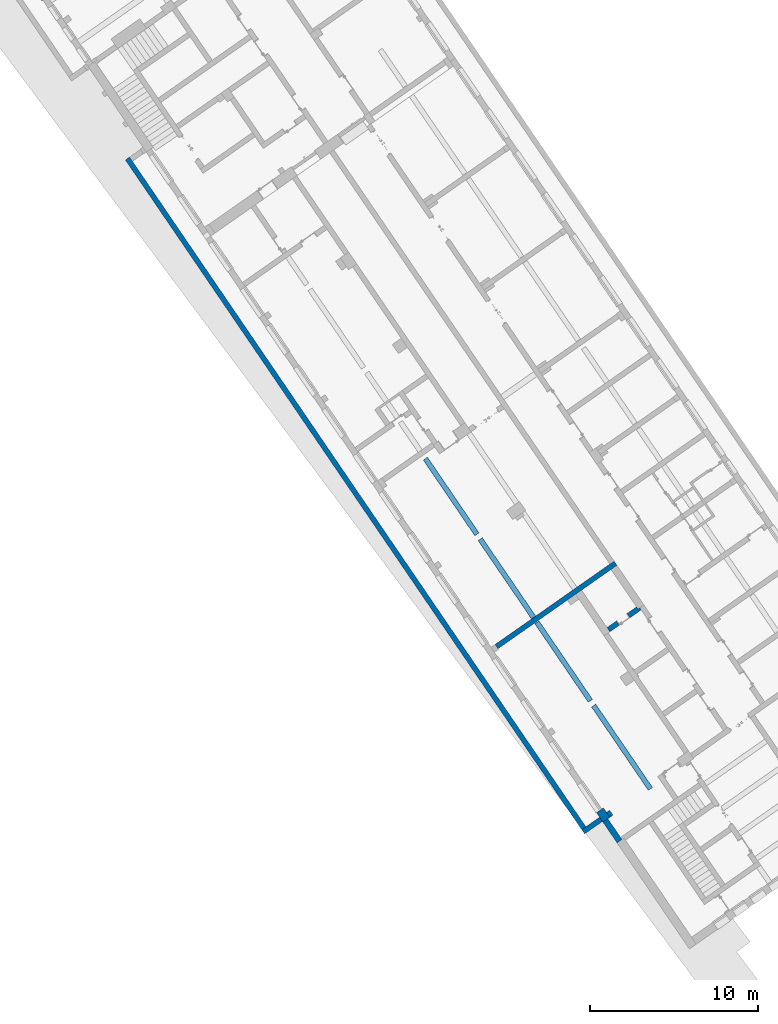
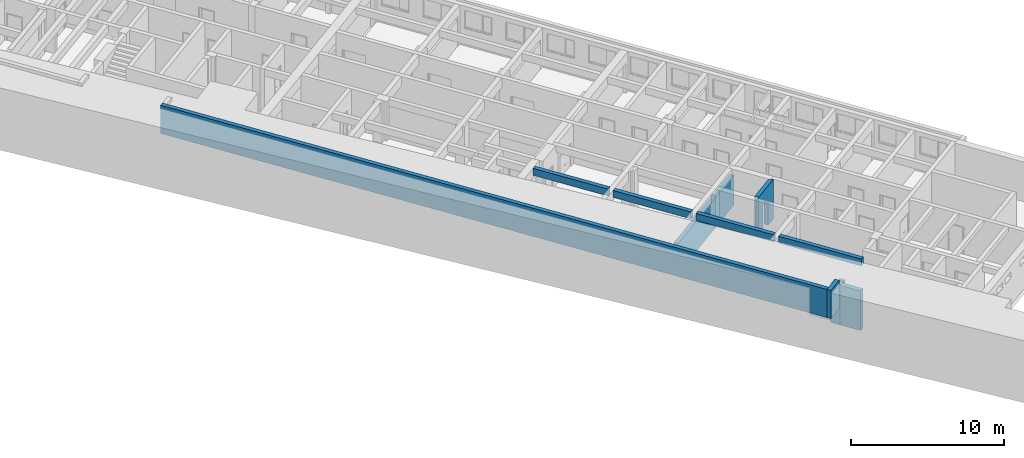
# One storey, part 14 of 112: 8 walls, 1 opening.
"""IFC2X3 building model written with IfcOpenShell, lengths in millimetres."""

from ifc_helpers import new_model, entity, si_unit, converted_unit, derived_unit, direction, frame, frame_2d, origin, place, context, subcontext, project, spatial, polyline, rectangle, outline, extrude, material, layer, layer_set, layer_usage, type_object, element, save


model = new_model("IFC2X3")

# Units and contexts
model_context = context("Model", 3, precision=0.01, world=origin(), true_north=direction((6.123031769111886e-17, 1.0)))
body_context = subcontext(model_context, "Body", "Model", "MODEL_VIEW")
ifc_project = project(units=[si_unit("LENGTHUNIT", "METRE", prefix="MILLI"), si_unit("AREAUNIT", "SQUARE_METRE"), si_unit("VOLUMEUNIT", "CUBIC_METRE"), converted_unit("PLANEANGLEUNIT", "DEGREE", entity("IfcRatioMeasure", 0.017453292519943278), si_unit("PLANEANGLEUNIT", "RADIAN"), dimensions=[0, 0, 0, 0, 0, 0, 0]), si_unit("MASSUNIT", "GRAM", prefix="KILO"), derived_unit("MASSDENSITYUNIT", [(si_unit("MASSUNIT", "GRAM", prefix="KILO"), 1), (si_unit("LENGTHUNIT", "METRE"), -3)]), derived_unit("MOMENTOFINERTIAUNIT", [(si_unit("LENGTHUNIT", "METRE"), 4)]), si_unit("TIMEUNIT", "SECOND"), si_unit("FREQUENCYUNIT", "HERTZ"), si_unit("THERMODYNAMICTEMPERATUREUNIT", "DEGREE_CELSIUS"), derived_unit("THERMALTRANSMITTANCEUNIT", [(si_unit("MASSUNIT", "GRAM", prefix="KILO"), 1), (si_unit("THERMODYNAMICTEMPERATUREUNIT", "KELVIN"), -1), (si_unit("TIMEUNIT", "SECOND"), -3)]), derived_unit("THERMALCONDUCTANCEUNIT", [(si_unit("MASSUNIT", "GRAM", prefix="KILO"), 1), (si_unit("LENGTHUNIT", "METRE"), 1), (si_unit("THERMODYNAMICTEMPERATUREUNIT", "KELVIN"), -1), (si_unit("TIMEUNIT", "SECOND"), -3)]), derived_unit("VOLUMETRICFLOWRATEUNIT", [(si_unit("LENGTHUNIT", "METRE"), 3), (si_unit("TIMEUNIT", "SECOND"), -1)]), derived_unit("MASSFLOWRATEUNIT", [(si_unit("MASSUNIT", "GRAM", prefix="KILO"), 1), (si_unit("TIMEUNIT", "SECOND"), -1)]), derived_unit("ROTATIONALFREQUENCYUNIT", [(si_unit("TIMEUNIT", "SECOND"), -1)]), si_unit("ELECTRICCURRENTUNIT", "AMPERE"), si_unit("ELECTRICVOLTAGEUNIT", "VOLT"), si_unit("POWERUNIT", "WATT"), converted_unit("FORCEUNIT", "KIP", entity("IfcRatioMeasure", 2.088543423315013e-05), si_unit("FORCEUNIT", "NEWTON"), dimensions=[1, 1, -2, 0, 0, 0, 0]), si_unit("ILLUMINANCEUNIT", "LUX"), si_unit("LUMINOUSFLUXUNIT", "LUMEN"), si_unit("LUMINOUSINTENSITYUNIT", "CANDELA"), derived_unit("USERDEFINED", [(si_unit("MASSUNIT", "GRAM", prefix="KILO"), -1), (si_unit("LENGTHUNIT", "METRE"), -2), (si_unit("TIMEUNIT", "SECOND"), 3), (si_unit("LUMINOUSFLUXUNIT", "LUMEN"), 1)]), derived_unit("USERDEFINED", [(si_unit("MASSUNIT", "GRAM", prefix="KILO"), 1), (si_unit("LENGTHUNIT", "METRE"), 3), (si_unit("TIMEUNIT", "SECOND"), -3), (si_unit("ELECTRICCURRENTUNIT", "AMPERE"), -2)]), derived_unit("USERDEFINED", [(si_unit("LENGTHUNIT", "METRE"), 2), (si_unit("TIMEUNIT", "SECOND"), -2)]), derived_unit("SOUNDPOWERUNIT", [(si_unit("MASSUNIT", "GRAM", prefix="KILO"), 1), (si_unit("LENGTHUNIT", "METRE"), 2), (si_unit("TIMEUNIT", "SECOND"), -3)]), derived_unit("SOUNDPRESSUREUNIT", [(si_unit("MASSUNIT", "GRAM", prefix="KILO"), 1), (si_unit("LENGTHUNIT", "METRE"), -1), (si_unit("TIMEUNIT", "SECOND"), -2)]), derived_unit("LINEARVELOCITYUNIT", [(si_unit("LENGTHUNIT", "METRE"), 1), (si_unit("TIMEUNIT", "SECOND"), -1)]), si_unit("PRESSUREUNIT", "PASCAL"), derived_unit("USERDEFINED", [(si_unit("LENGTHUNIT", "METRE"), -2), (si_unit("MASSUNIT", "GRAM", prefix="KILO"), 1), (si_unit("TIMEUNIT", "SECOND"), -2)]), derived_unit("LINEARFORCEUNIT", [(si_unit("MASSUNIT", "GRAM", prefix="KILO"), 1), (si_unit("LENGTHUNIT", "METRE"), 1), (si_unit("TIMEUNIT", "SECOND"), -2), (si_unit("LENGTHUNIT", "METRE"), -1)]), derived_unit("PLANARFORCEUNIT", [(si_unit("MASSUNIT", "GRAM", prefix="KILO"), 1), (si_unit("LENGTHUNIT", "METRE"), 1), (si_unit("TIMEUNIT", "SECOND"), -2), (si_unit("LENGTHUNIT", "METRE"), -2)]), derived_unit("SPECIFICHEATCAPACITYUNIT", [(si_unit("LENGTHUNIT", "METRE"), 2), (si_unit("TIMEUNIT", "SECOND"), -2), (si_unit("THERMODYNAMICTEMPERATUREUNIT", "KELVIN"), -1)]), derived_unit("VAPORPERMEABILITYUNIT", [(si_unit("TIMEUNIT", "SECOND"), 1), (si_unit("LENGTHUNIT", "METRE"), -1)]), derived_unit("DYNAMICVISCOSITYUNIT", [(si_unit("MASSUNIT", "GRAM", prefix="KILO"), 1), (si_unit("LENGTHUNIT", "METRE"), -1), (si_unit("TIMEUNIT", "SECOND"), -1)]), derived_unit("THERMALEXPANSIONCOEFFICIENTUNIT", [(si_unit("THERMODYNAMICTEMPERATUREUNIT", "KELVIN"), -1)])], contexts=[model_context])

# Site, building, storey
site_placement = place(None, frame((0.0, 0.0, 0.0), z_axis=(0.0, 0.0, 1.0), x_axis=(0.8191520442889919, 0.5735764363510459, 0.0)))
site = spatial("IfcSite", under=ifc_project, at=site_placement, Name="Default", CompositionType="ELEMENT")
building_placement = place(site_placement, origin())
building = spatial("IfcBuilding", under=site, at=building_placement, CompositionType="ELEMENT")
storey_placement = place(building_placement, frame((0.0, 0.0, -3600.0)))
storey = spatial("IfcBuildingStorey", under=building, at=storey_placement, Name="0.UG -3.60", CompositionType="ELEMENT", Elevation=-3600.0000000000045)

# Walls
ifc_material = material(Name="Analytical Wall Surface_CJC")
ifc_layer_1 = layer(ifc_material, 350.0)
ifc_layer_set_1 = layer_set([ifc_layer_1], Name="Basic Wall:Wand_Aussen_35")
ifc_layer_usage_1 = layer_usage(ifc_layer_set_1, "AXIS2", "NEGATIVE", 175.0)
wall_type_1 = type_object("IfcWallType", Name="Basic Wall:Wand_Aussen_35", PredefinedType="STANDARD", material=ifc_layer_set_1)
wall_1_placement = place(storey_placement, frame((-223635.80893660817, 59721.35891450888, 300.0), z_axis=(0.0, 0.0, 1.0), x_axis=(0.012729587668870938, 0.9999189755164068, 0.0)))
element("IfcWallStandardCase", 1, at=wall_1_placement, inside=storey, type_object=wall_type_1, material=ifc_layer_usage_1, Name="Basic Wall:Wand_Aussen_35", ObjectType="Basic Wall:Wand_Aussen_35", context=body_context, shape_type="SweptSolid", body=[
    extrude(rectangle(XDim=1497.5653804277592, YDim=349.99999999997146, at=frame_2d((748.7826902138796, 2.2311041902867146e-12), x_axis=(-1.0, 0.0))), origin(), (0.0, 0.0, 1.0), 3150.0),
])
ifc_layer_2 = layer(ifc_material, 300.0)
ifc_layer_set_2 = layer_set([ifc_layer_2], Name="Basic Wall:Wand_Innen_30")
ifc_layer_usage_2 = layer_usage(ifc_layer_set_2, "AXIS2", "POSITIVE", -150.0)
wall_type_2 = type_object("IfcWallType", Name="Basic Wall:Wand_Innen_30", PredefinedType="STANDARD", material=ifc_layer_set_2)
wall_2_placement = place(storey_placement, frame((-222986.74069294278, 73421.35891435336, 300.0)))
element("IfcWallStandardCase", 2, at=wall_2_placement, inside=storey, type_object=wall_type_2, material=ifc_layer_usage_2, Name="Basic Wall:Wand_Innen_30", ObjectType="Basic Wall:Wand_Innen_30", context=body_context, shape_type="SweptSolid", body=[
    extrude(outline(polyline([(8649.121699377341, -150.0), (8652.940880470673, 150.0), (8352.916757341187, 150.0), (0.0, 150.0), (0.0, -150.0), (5044.374317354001, -150.0), (5648.878652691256, -150.0), (6073.91309088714, -150.0), (8224.08726126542, -150.0), (8649.121699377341, -150.0)])), origin(), (0.0, 0.0, 1.0), 2400.0),
])

# Wall, opening
ifc_layer_usage_3 = layer_usage(ifc_layer_set_2, "AXIS2", "NEGATIVE", 150.0)
wall_3_placement = place(storey_placement, frame((-214675.83511390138, 70421.35891435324, 300.0), z_axis=(0.0, 0.0, 1.0), x_axis=(-1.0, 0.0, 0.0)))
wall_3 = element("IfcWallStandardCase", 3, at=wall_3_placement, inside=storey, type_object=wall_type_2, material=ifc_layer_usage_3, Name="Basic Wall:Wand_Innen_30", ObjectType="Basic Wall:Wand_Innen_30", context=body_context, shape_type="SweptSolid", body=[
    extrude(outline(polyline([(121.19094761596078, -150.0), (2271.3651598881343, -150.0), (2275.184345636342, 150.0), (0.0, 150.0), (-1.9339012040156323, -1.9094381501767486), (123.06610144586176, -2.705034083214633), (121.19094761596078, -150.0)])), origin(), (0.0, 0.0, 1.0), 3150.0),
])
opening_placement = place(wall_3_placement, frame((810.0688763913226, -150.0, 0.0)))
element("IfcOpeningElement", 4, at=opening_placement, cuts=wall_3, Name="Doors_IntSgl:70x210:1", ObjectType="Opening", context=body_context, shape_type="SweptSolid", body=[
    extrude(rectangle(XDim=2150.000000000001, YDim=779.9999999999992, at=frame_2d((1075.0000000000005, 389.9999999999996), x_axis=(1.0, 0.0))), frame((0.0, 0.0, 0.0), z_axis=(0.0, 1.0, 0.0), x_axis=(0.0, 0.0, 1.0)), (0.0, 0.0, 1.0), 300.0),
])

# Walls
wall_4_placement = place(storey_placement, frame((-220341.52124795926, 61219.44947620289, 2900.0), z_axis=(0.0, 0.0, 1.0), x_axis=(0.01272958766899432, 0.9999189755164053, 0.0)))
element("IfcWall", 5, at=wall_4_placement, inside=storey, type_object=wall_type_2, Name="Basic Wall:Wand_Innen_30", ObjectType="Basic Wall:Wand_Innen_30", context=body_context, shape_type="SweptSolid", body=[
    extrude(outline(polyline([(-3001.197889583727, -150.0), (3003.107482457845, -150.0), (2999.2882967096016, 150.0), (-3001.1978895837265, 150.0), (-3001.197889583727, -150.0)])), frame((3001.1978895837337, 0.0, 0.0)), (0.0, 0.0, 1.0), 550.0),
    extrude(outline(polyline([(-2723.3112167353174, -150.0), (2727.1304024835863, -150.0), (2723.3112167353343, 150.0), (-2727.1304024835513, 150.0), (-2723.3112167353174, -150.0)])), frame((21078.61732223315, 0.0, 0.0), z_axis=(0.0, 0.0, 1.0), x_axis=(-1.0, 0.0, 0.0)), (0.0, 0.0, 1.0), 549.9999999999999),
    extrude(outline(polyline([(-2823.3193198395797, -150.0), (2827.1385055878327, -150.0), (2823.3193198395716, 150.0), (-2827.138505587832, 150.0), (-2823.3193198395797, -150.0)])), frame((15178.13923904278, 0.0, 0.0), z_axis=(0.0, 0.0, 1.0), x_axis=(-1.0, 0.0, 0.0)), (0.0, 0.0, 1.0), 550.0),
    extrude(outline(polyline([(-2823.3193198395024, -150.0), (2827.1385055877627, -150.0), (2823.3193198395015, 150.0), (-2827.138505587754, 150.0), (-2823.3193198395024, -150.0)])), frame((9177.653052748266, 0.0, 0.0), z_axis=(0.0, 0.0, 1.0), x_axis=(-1.0, 0.0, 0.0)), (0.0, 0.0, 1.0), 550.0),
])
ifc_layer_3 = layer(ifc_material, 350.0)
ifc_layer_set_3 = layer_set([ifc_layer_3], Name="Basic Wall:Wand_Innen_35")
ifc_layer_usage_4 = layer_usage(ifc_layer_set_3, "AXIS2", "NEGATIVE", 175.0)
wall_type_3 = type_object("IfcWallType", Name="Basic Wall:Wand_Innen_35", PredefinedType="STANDARD", material=ifc_layer_set_3)
wall_5_placement = place(storey_placement, frame((-223065.35226626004, 61396.35891435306, 300.0), z_axis=(0.0, 0.0, 1.0), x_axis=(-1.0, 0.0, 0.0)))
element("IfcWallStandardCase", 6, at=wall_5_placement, inside=storey, type_object=wall_type_3, material=ifc_layer_usage_4, Name="Basic Wall:Wand_Innen_35", ObjectType="Basic Wall:Wand_Innen_35", context=body_context, shape_type="SweptSolid", body=[
    extrude(rectangle(XDim=226.39586961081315, YDim=350.00000000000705, at=frame_2d((113.19793480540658, 1.2789769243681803e-13), x_axis=(-1.0, 0.0))), origin(), (0.0, 0.0, 1.0), 3150.0),
])
ifc_layer_4 = layer(ifc_material, 500.00000000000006)
ifc_layer_set_4 = layer_set([ifc_layer_4], Name="Basic Wall:Wand_Aussen_50")
ifc_layer_usage_5 = layer_usage(ifc_layer_set_4, "AXIS2", "NEGATIVE", 250.00000000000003)
wall_type_4 = type_object("IfcWallType", Name="Basic Wall:Wand_Aussen_50", PredefinedType="STANDARD", material=ifc_layer_set_4)
wall_6_placement = place(storey_placement, frame((-223541.75162364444, 61217.84823639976, 300.0), z_axis=(0.0, 0.0, 1.0), x_axis=(0.012729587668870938, 0.9999189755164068, 0.0)))
element("IfcWallStandardCase", 7, at=wall_6_placement, inside=storey, type_object=wall_type_4, material=ifc_layer_usage_5, Name="Basic Wall:Wand_Aussen_50", ObjectType="Basic Wall:Wand_Aussen_50", context=body_context, shape_type="SweptSolid", body=[
    extrude(rectangle(XDim=680.0000000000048, YDim=500.00000000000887, at=frame_2d((340.0000000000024, 1.2732925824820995e-11), x_axis=(-1.0, 0.0))), origin(), (0.0, 0.0, 1.0), 3150.0),
])
ifc_layer_5 = layer(ifc_material, 300.0)
ifc_layer_set_5 = layer_set([ifc_layer_5], Name="Basic Wall:Wand_Aussen_30")
ifc_layer_usage_6 = layer_usage(ifc_layer_set_5, "AXIS2", "NEGATIVE", 150.0)
wall_type_5 = type_object("IfcWallType", Name="Basic Wall:Wand_Aussen_30", PredefinedType="STANDARD", material=ifc_layer_set_5)
wall_7_placement = place(storey_placement, frame((-223787.27147159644, 61421.35891435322, 1600.0), z_axis=(0.0, 0.0, 1.0), x_axis=(-1.0, 0.0, 0.0)))
element("IfcWallStandardCase", 8, at=wall_7_placement, inside=storey, type_object=wall_type_5, material=ifc_layer_usage_6, Name="Basic Wall:Wand_Aussen_30", ObjectType="Basic Wall:Wand_Aussen_30", context=body_context, shape_type="SweptSolid", body=[
    extrude(outline(polyline([(1300.1668034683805, -150.0), (1303.985989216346, 150.0), (3.8191857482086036, 150.0), (0.0, -150.0), (1000.1424941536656, -150.0), (1300.1668034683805, -150.0)])), origin(), (0.0, 0.0, 1.0), 2250.0),
])
wall_8_placement = place(storey_placement, frame((-224937.45042873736, 61569.449476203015, 1600.0), z_axis=(0.0, 0.0, 1.0), x_axis=(0.01272958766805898, 0.9999189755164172, 0.0)))
element("IfcWallStandardCase", 9, at=wall_8_placement, inside=storey, type_object=wall_type_5, material=ifc_layer_usage_6, Name="Basic Wall:Wand_Aussen_30", ObjectType="Basic Wall:Wand_Aussen_30", context=body_context, shape_type="SweptSolid", body=[
    extrude(outline(polyline([(48282.73095964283, -150.0), (48278.911773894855, 150.0), (0.0, 150.0), (3.8191857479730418, -150.0), (47982.70665032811, -150.0), (48282.73095964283, -150.0)])), origin(), (0.0, 0.0, 1.0), 2250.0),
])

save(model, "model.ifc")
